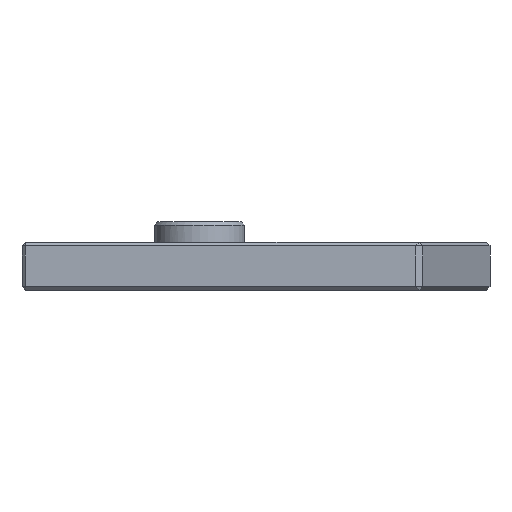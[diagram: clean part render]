
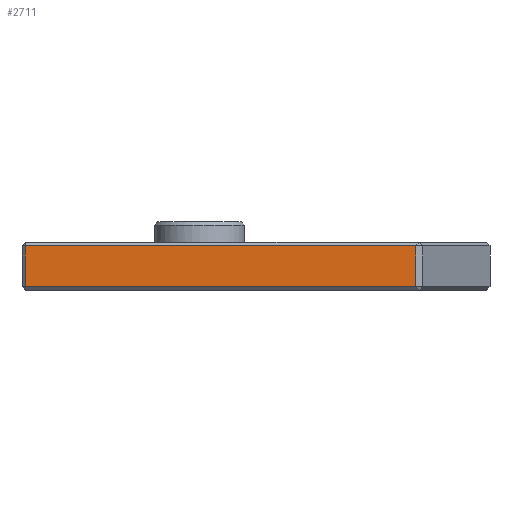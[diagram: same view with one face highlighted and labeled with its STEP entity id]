
A CAD part, front view. The second image highlights one B-rep face of the part: STEP entity #2711.
In plain terms, the highlighted planar face has unit normal (0, -1, 0).
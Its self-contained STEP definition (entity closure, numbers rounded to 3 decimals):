
#19 = CARTESIAN_POINT ( 'NONE',  ( -19., 0., 3.25 ) ) ;
#50 = ORIENTED_EDGE ( 'NONE', *, *, #1635, .T. ) ;
#181 = DIRECTION ( 'NONE',  ( 0., 0., 1. ) ) ;
#249 = VECTOR ( 'NONE', #181, 1000. ) ;
#305 = CARTESIAN_POINT ( 'NONE',  ( 9.565, 0., 3.25 ) ) ;
#355 = ORIENTED_EDGE ( 'NONE', *, *, #1360, .T. ) ;
#403 = VECTOR ( 'NONE', #543, 1000. ) ;
#430 = EDGE_CURVE ( 'NONE', #933, #1058, #3245, .T. ) ;
#543 = DIRECTION ( 'NONE',  ( 1., 0., 0. ) ) ;
#585 = EDGE_CURVE ( 'NONE', #1785, #2397, #2031, .T. ) ;
#691 = CARTESIAN_POINT ( 'NONE',  ( 0., 0., 3.25 ) ) ;
#692 = DIRECTION ( 'NONE',  ( 0., 1., 0. ) ) ;
#799 = DIRECTION ( 'NONE',  ( 0., 0., -1. ) ) ;
#801 = CARTESIAN_POINT ( 'NONE',  ( 10., 0., 0.25 ) ) ;
#933 = VERTEX_POINT ( 'NONE', #1021 ) ;
#960 = LINE ( 'NONE', #691, #1869 ) ;
#1021 = CARTESIAN_POINT ( 'NONE',  ( 9.565, 0., 0.25 ) ) ;
#1058 = VERTEX_POINT ( 'NONE', #305 ) ;
#1080 = ORIENTED_EDGE ( 'NONE', *, *, #430, .T. ) ;
#1143 = VECTOR ( 'NONE', #799, 1000. ) ;
#1360 = EDGE_CURVE ( 'NONE', #2397, #933, #2069, .T. ) ;
#1635 = EDGE_CURVE ( 'NONE', #1058, #1785, #960, .T. ) ;
#1656 = CARTESIAN_POINT ( 'NONE',  ( -19., 0., 0.25 ) ) ;
#1785 = VERTEX_POINT ( 'NONE', #19 ) ;
#1869 = VECTOR ( 'NONE', #2442, 1000. ) ;
#1948 = CARTESIAN_POINT ( 'NONE',  ( 0., 0., 3.5 ) ) ;
#2031 = LINE ( 'NONE', #3054, #1143 ) ;
#2069 = LINE ( 'NONE', #801, #403 ) ;
#2202 = DIRECTION ( 'NONE',  ( 0., 0., 1. ) ) ;
#2397 = VERTEX_POINT ( 'NONE', #1656 ) ;
#2442 = DIRECTION ( 'NONE',  ( -1., 0., 0. ) ) ;
#2656 = ORIENTED_EDGE ( 'NONE', *, *, #585, .T. ) ;
#2676 = EDGE_LOOP ( 'NONE', ( #355, #1080, #50, #2656 ) ) ;
#2711 = ADVANCED_FACE ( 'NONE', ( #2826 ), #3197, .F. ) ;
#2736 = CARTESIAN_POINT ( 'NONE',  ( 9.565, 0., 3.5 ) ) ;
#2826 = FACE_OUTER_BOUND ( 'NONE', #2676, .T. ) ;
#2849 = AXIS2_PLACEMENT_3D ( 'NONE', #1948, #692, #2202 ) ;
#3054 = CARTESIAN_POINT ( 'NONE',  ( -19., 0., 0. ) ) ;
#3197 = PLANE ( 'NONE',  #2849 ) ;
#3245 = LINE ( 'NONE', #2736, #249 ) ;
